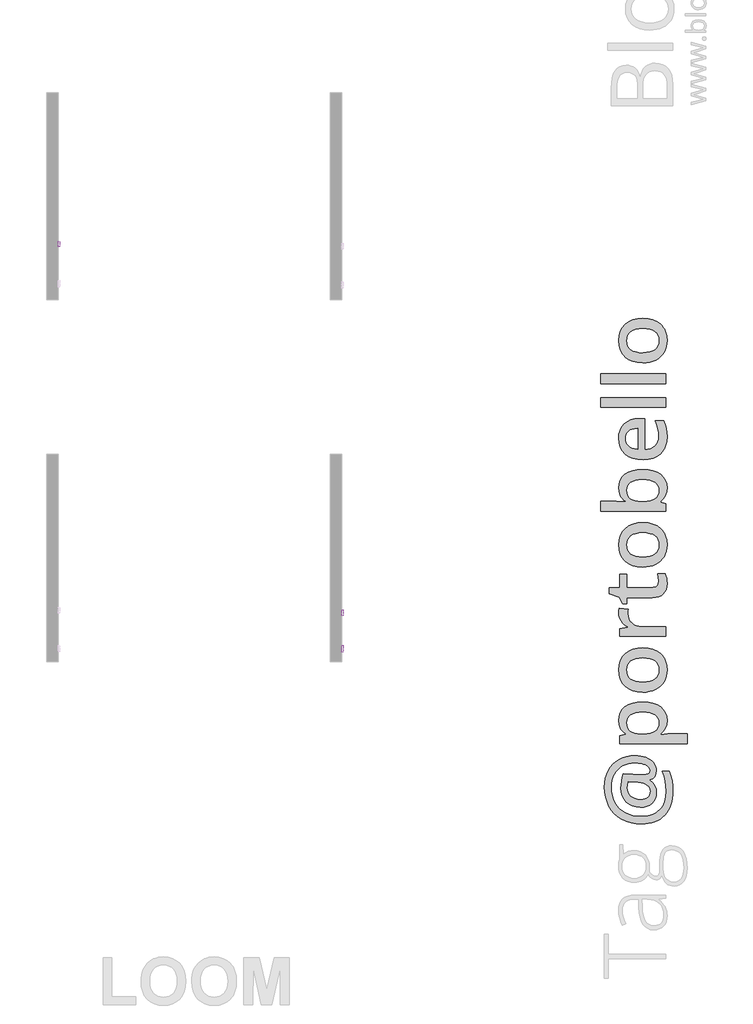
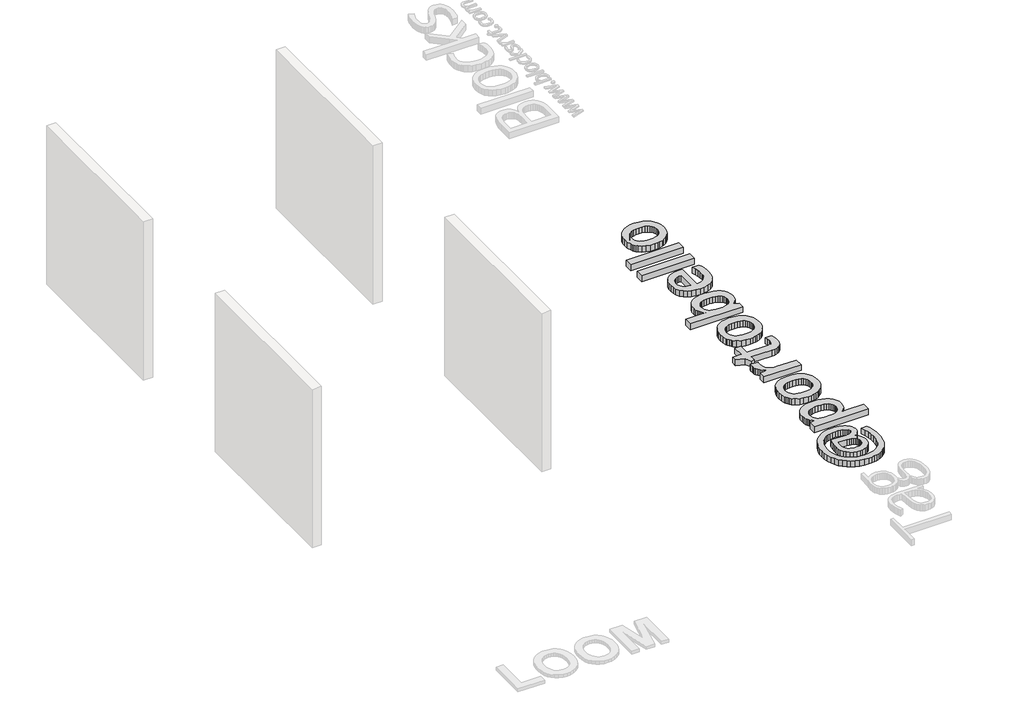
# One storey, part 2 of 3: 4 proxies.
"""IFC4 building model written with IfcOpenShell, lengths in millimetres."""

from ifc_helpers import new_model, si_unit, frame, origin, origin_with_axes, place, context, project, spatial, polyline, outline, extrude, element, save

model = new_model("IFC4")

# Units and contexts
model_context = context("Model", 3, world=origin())
ifc_project = project(units=[si_unit("LENGTHUNIT", "METRE", prefix="MILLI")], contexts=[model_context])

# Site, building, storey
site = spatial("IfcSite", under=ifc_project)
building = spatial("IfcBuilding", under=site)
storey = spatial("IfcBuildingStorey", under=building, Name="PORTOBELLO - SHOWROOM", Elevation=0.0)

# Proxies
placement = place(None, origin())
element("IfcBuildingElementProxy", 1, Name="10mm Arial", ObjectType="10mm Arial", at=placement, inside=storey, context=model_context, shape_type="SweptSolid", body=[
    extrude(outline(polyline([(-8017.1069718, 2485.3397277), (-8004.549933, 2482.1023661), (-8010.3440744, 2467.4698598), (-8019.4368911, 2456.7798221), (-8031.3807932, 2450.2407197), (-8045.728191, 2448.0610188), (-8060.2932523, 2449.7103564), (-8071.8600754, 2454.6583693), (-8080.7260315, 2462.7333791), (-8087.1884919, 2473.7637076), (-8092.4492044, 2500.6190932), (-8090.962348, 2515.266928), (-8086.5017788, 2527.9159373), (-8079.3004887, 2538.1645165), (-8069.5914698, 2545.6110612), (-8058.0767633, 2550.1452068), (-8045.4584109, 2551.6565887), (-8031.6904272, 2549.7006827), (-8020.3075451, 2543.8329649), (-8011.6653839, 2534.4151858), (-8006.1195629, 2521.8090961), (-8018.6766016, 2518.8169892), (-8028.9772975, 2534.2557703), (-8045.9489202, 2539.0995499), (-8065.5938187, 2533.7284728), (-8076.6915923, 2519.3074986), (-8079.8921656, 2500.6436187), (-8076.1029811, 2479.0121574), (-8064.3062318, 2465.1920571), (-8046.9789898, 2460.6180576), (-8036.4974186, 2462.1754247), (-8027.7632869, 2466.8475261), (-8021.1690021, 2474.5853107), (-8017.1069718, 2485.3397277)])), frame((-5514.3406146, 0.0, 0.0), z_axis=(1.0, 0.0, 0.0), x_axis=(0.0, 1.0, 0.0)), (0.0, 0.0, 1.0), 20.0),
    extrude(outline(polyline([(-7991.9928942, 2486.5169501), (-7989.2766988, 2504.3040445), (-7981.1281127, 2516.805901), (-7971.0604087, 2522.9311362), (-7959.006142, 2524.9728813), (-7945.8145068, 2522.4866121), (-7935.2777533, 2515.0278047), (-7928.3707689, 2503.1850701), (-7926.0684407, 2487.5470196), (-7930.1396681, 2465.2043198), (-7941.9977311, 2452.5614419), (-7959.006142, 2448.0610188), (-7972.3571928, 2450.5380909), (-7982.8816835, 2457.9693072), (-7989.7150916, 2470.0603621), (-7991.9928942, 2486.5169501)]), holes=[polyline([(-7979.4358555, 2486.5414755), (-7977.9827216, 2475.1769876), (-7973.62332, 2467.080518), (-7967.0627577, 2462.2336727), (-7959.006142, 2460.6180576), (-7950.9863145, 2462.2428697), (-7944.438015, 2467.1173062), (-7940.0786134, 2475.3210747), (-7938.6254795, 2486.933883), (-7940.0878104, 2497.9672772), (-7944.4748032, 2505.9533821), (-7951.0322998, 2510.8002274), (-7959.006142, 2512.4158425), (-7967.0627577, 2510.8063588), (-7973.62332, 2505.9779076), (-7977.9827216, 2497.8998321), (-7979.4358555, 2486.5414755)])]), frame((-5514.3406146, 0.0, 0.0), z_axis=(1.0, 0.0, 0.0), x_axis=(0.0, 1.0, 0.0)), (0.0, 0.0, 1.0), 20.0),
    extrude(outline(polyline([(-7885.2580647, 2460.1030228), (-7883.6884349, 2449.2627667), (-7893.0816885, 2448.0610188), (-7903.6031135, 2450.1456835), (-7908.8515633, 2455.6148625), (-7910.3721422, 2469.8641584), (-7910.3721422, 2510.8462127), (-7919.7899213, 2510.8462127), (-7919.7899213, 2523.4032514), (-7910.3721422, 2523.4032514), (-7910.3721422, 2541.3313673), (-7897.8151035, 2548.7135327), (-7897.8151035, 2523.4032514), (-7885.2580647, 2523.4032514), (-7885.2580647, 2510.8462127), (-7897.8151035, 2510.8462127), (-7897.8151035, 2470.2320404), (-7897.1529159, 2463.7573173), (-7895.0069376, 2461.4641862), (-7890.7272437, 2460.6180576), (-7885.2580647, 2460.1030228)])), frame((-5514.3406146, 0.0, 0.0), z_axis=(1.0, 0.0, 0.0), x_axis=(0.0, 1.0, 0.0)), (0.0, 0.0, 1.0), 20.0),
    extrude(outline(polyline([(-7846.0173186, 2460.1030228), (-7844.4476887, 2449.2627667), (-7853.8409423, 2448.0610188), (-7864.3623674, 2450.1456835), (-7869.6108172, 2455.6148625), (-7871.1313961, 2469.8641584), (-7871.1313961, 2510.8462127), (-7880.5491752, 2510.8462127), (-7880.5491752, 2523.4032514), (-7871.1313961, 2523.4032514), (-7871.1313961, 2541.3313673), (-7858.5743573, 2548.7135327), (-7858.5743573, 2523.4032514), (-7846.0173186, 2523.4032514), (-7846.0173186, 2510.8462127), (-7858.5743573, 2510.8462127), (-7858.5743573, 2470.2320404), (-7857.9121697, 2463.7573173), (-7855.7661914, 2461.4641862), (-7851.4864976, 2460.6180576), (-7846.0173186, 2460.1030228)])), frame((-5514.3406146, 0.0, 0.0), z_axis=(1.0, 0.0, 0.0), x_axis=(0.0, 1.0, 0.0)), (0.0, 0.0, 1.0), 20.0),
    extrude(outline(polyline([(-7836.5995395, 2486.5169501), (-7833.8833441, 2504.3040445), (-7825.7347579, 2516.805901), (-7815.667054, 2522.9311362), (-7803.6127872, 2524.9728813), (-7790.421152, 2522.4866121), (-7779.8843986, 2515.0278047), (-7772.9774141, 2503.1850701), (-7770.6750859, 2487.5470196), (-7774.7463134, 2465.2043198), (-7786.6043763, 2452.5614419), (-7803.6127872, 2448.0610188), (-7816.963838, 2450.5380909), (-7827.4883287, 2457.9693072), (-7834.3217368, 2470.0603621), (-7836.5995395, 2486.5169501)]), holes=[polyline([(-7824.0425007, 2486.5414755), (-7822.5893668, 2475.1769876), (-7818.2299652, 2467.080518), (-7811.6694029, 2462.2336727), (-7803.6127872, 2460.6180576), (-7795.5929598, 2462.2428697), (-7789.0446602, 2467.1173062), (-7784.6852586, 2475.3210747), (-7783.2321247, 2486.933883), (-7784.6944556, 2497.9672772), (-7789.0814484, 2505.9533821), (-7795.638945, 2510.8002274), (-7803.6127872, 2512.4158425), (-7811.6694029, 2510.8063588), (-7818.2299652, 2505.9779076), (-7822.5893668, 2497.8998321), (-7824.0425007, 2486.5414755)])]), frame((-5514.3406146, 0.0, 0.0), z_axis=(1.0, 0.0, 0.0), x_axis=(0.0, 1.0, 0.0)), (0.0, 0.0, 1.0), 20.0),
    extrude(outline(polyline([(-7756.5484173, 2449.6306487), (-7756.5484173, 2523.4032514), (-7743.9913786, 2523.4032514), (-7743.9913786, 2513.1025556), (-7734.3896585, 2522.0052999), (-7721.2807967, 2524.9728813), (-7709.4227337, 2522.5816483), (-7701.3293299, 2516.3031289), (-7697.5646708, 2507.0692909), (-7696.9024832, 2494.929185), (-7696.9024832, 2449.6306487), (-7709.4595219, 2449.6306487), (-7709.4595219, 2493.2369278), (-7710.9065245, 2504.3469641), (-7716.0200842, 2510.2208133), (-7724.6407856, 2512.4158425), (-7738.2646822, 2507.4862238), (-7742.5597045, 2500.3431817), (-7743.9913786, 2488.773293), (-7743.9913786, 2449.6306487), (-7756.5484173, 2449.6306487)])), frame((-5514.3406146, 0.0, 0.0), z_axis=(1.0, 0.0, 0.0), x_axis=(0.0, 1.0, 0.0)), (0.0, 0.0, 1.0), 20.0),
])
element("IfcBuildingElementProxy", 2, Name="10mm Arial", ObjectType="10mm Arial", at=placement, inside=storey, context=model_context, shape_type="SweptSolid", body=[
    extrude(outline(polyline([(-7617.7403149, 2449.6306487), (-7617.7403149, 2550.0869588), (-7580.5106569, 2550.0869588), (-7565.5010715, 2549.1304656), (-7553.299652, 2544.4338388), (-7545.3901891, 2534.7217542), (-7542.3980822, 2521.0242812), (-7544.4183675, 2509.1846123), (-7550.4792234, 2499.3192435), (-7561.8130545, 2492.6605794), (-7579.6522656, 2490.4410247), (-7605.1832761, 2490.4410247), (-7605.1832761, 2449.6306487), (-7617.7403149, 2449.6306487)]), holes=[polyline([(-7605.1832761, 2502.9980634), (-7578.9165016, 2502.9980634), (-7560.4243, 2507.6088511), (-7556.3224158, 2513.1577379), (-7554.955121, 2520.5828228), (-7558.1802198, 2530.9816205), (-7566.6537685, 2536.6715287), (-7579.2108072, 2537.5299201), (-7605.1832761, 2537.5299201), (-7605.1832761, 2502.9980634)])]), frame((-5514.3406146, 0.0, 0.0), z_axis=(1.0, 0.0, 0.0), x_axis=(0.0, 1.0, 0.0)), (0.0, 0.0, 1.0), 20.0),
    extrude(outline(polyline([(-7529.8410435, 2486.5169501), (-7527.1248481, 2504.3040445), (-7518.9762619, 2516.805901), (-7508.9085579, 2522.9311362), (-7496.8542912, 2524.9728813), (-7483.662656, 2522.4866121), (-7473.1259026, 2515.0278047), (-7466.2189181, 2503.1850701), (-7463.9165899, 2487.5470196), (-7467.9878174, 2465.2043198), (-7479.8458803, 2452.5614419), (-7496.8542912, 2448.0610188), (-7510.205342, 2450.5380909), (-7520.7298327, 2457.9693072), (-7527.5632408, 2470.0603621), (-7529.8410435, 2486.5169501)]), holes=[polyline([(-7517.2840047, 2486.5414755), (-7515.8308708, 2475.1769876), (-7511.4714692, 2467.080518), (-7504.9109069, 2462.2336727), (-7496.8542912, 2460.6180576), (-7488.8344637, 2462.2428697), (-7482.2861642, 2467.1173062), (-7477.9267626, 2475.3210747), (-7476.4736287, 2486.933883), (-7477.9359596, 2497.9672772), (-7482.3229524, 2505.9533821), (-7488.880449, 2510.8002274), (-7496.8542912, 2512.4158425), (-7504.9109069, 2510.8063588), (-7511.4714692, 2505.9779076), (-7515.8308708, 2497.8998321), (-7517.2840047, 2486.5414755)])]), frame((-5514.3406146, 0.0, 0.0), z_axis=(1.0, 0.0, 0.0), x_axis=(0.0, 1.0, 0.0)), (0.0, 0.0, 1.0), 20.0),
    extrude(outline(polyline([(-7449.7899213, 2449.6306487), (-7449.7899213, 2523.4032514), (-7438.8025124, 2523.4032514), (-7438.8025124, 2512.4894189), (-7431.0034141, 2522.5448601), (-7423.1552649, 2524.9728813), (-7410.5491752, 2521.0978576), (-7414.7430299, 2509.8406686), (-7423.5721978, 2512.4158425), (-7430.6723203, 2509.9387704), (-7435.1972688, 2503.0716398), (-7437.2328826, 2488.405411), (-7437.2328826, 2449.6306487), (-7449.7899213, 2449.6306487)])), frame((-5514.3406146, 0.0, 0.0), z_axis=(1.0, 0.0, 0.0), x_axis=(0.0, 1.0, 0.0)), (0.0, 0.0, 1.0), 20.0),
    extrude(outline(polyline([(-7376.0173186, 2460.1030228), (-7374.4476887, 2449.2627667), (-7383.8409423, 2448.0610188), (-7394.3623674, 2450.1456835), (-7399.6108172, 2455.6148625), (-7401.1313961, 2469.8641584), (-7401.1313961, 2510.8462127), (-7410.5491752, 2510.8462127), (-7410.5491752, 2521.0978576), (-7410.5491752, 2523.4032514), (-7401.1313961, 2523.4032514), (-7401.1313961, 2541.3313673), (-7388.5743573, 2548.7135327), (-7388.5743573, 2523.4032514), (-7376.0173186, 2523.4032514), (-7376.0173186, 2510.8462127), (-7388.5743573, 2510.8462127), (-7388.5743573, 2470.2320404), (-7387.9121697, 2463.7573173), (-7385.7661914, 2461.4641862), (-7381.4864976, 2460.6180576), (-7376.0173186, 2460.1030228)])), frame((-5514.3406146, 0.0, 0.0), z_axis=(1.0, 0.0, 0.0), x_axis=(0.0, 1.0, 0.0)), (0.0, 0.0, 1.0), 20.0),
    extrude(outline(polyline([(-7366.5995395, 2486.5169501), (-7363.8833441, 2504.3040445), (-7355.7347579, 2516.805901), (-7345.667054, 2522.9311362), (-7333.6127872, 2524.9728813), (-7320.421152, 2522.4866121), (-7309.8843986, 2515.0278047), (-7302.9774141, 2503.1850701), (-7300.6750859, 2487.5470196), (-7304.7463134, 2465.2043198), (-7316.6043763, 2452.5614419), (-7333.6127872, 2448.0610188), (-7346.963838, 2450.5380909), (-7357.4883287, 2457.9693072), (-7364.3217368, 2470.0603621), (-7366.5995395, 2486.5169501)]), holes=[polyline([(-7354.0425007, 2486.5414755), (-7352.5893668, 2475.1769876), (-7348.2299652, 2467.080518), (-7341.6694029, 2462.2336727), (-7333.6127872, 2460.6180576), (-7325.5929598, 2462.2428697), (-7319.0446602, 2467.1173062), (-7314.6852586, 2475.3210747), (-7313.2321247, 2486.933883), (-7314.6944556, 2497.9672772), (-7319.0814484, 2505.9533821), (-7325.638945, 2510.8002274), (-7333.6127872, 2512.4158425), (-7341.6694029, 2510.8063588), (-7348.2299652, 2505.9779076), (-7352.5893668, 2497.8998321), (-7354.0425007, 2486.5414755)])]), frame((-5514.3406146, 0.0, 0.0), z_axis=(1.0, 0.0, 0.0), x_axis=(0.0, 1.0, 0.0)), (0.0, 0.0, 1.0), 20.0),
    extrude(outline(polyline([(-7273.9913786, 2449.6306487), (-7286.5484173, 2449.6306487), (-7286.5484173, 2550.0869588), (-7273.9913786, 2550.0869588), (-7273.9913786, 2512.8327754), (-7265.1989989, 2521.9378548), (-7254.2729036, 2524.9728813), (-7241.6913394, 2522.2382918), (-7231.9302038, 2514.5495581), (-7225.9337273, 2502.5933932), (-7223.7632235, 2487.620596), (-7226.0103693, 2470.8574398), (-7232.7518069, 2458.3862402), (-7242.6447669, 2450.6423242), (-7254.34648, 2448.0610188), (-7265.5116986, 2451.3903509), (-7273.9913786, 2461.3783471), (-7273.9913786, 2449.6306487)]), holes=[polyline([(-7273.9913786, 2487.0319849), (-7270.5578133, 2469.471751), (-7263.9788569, 2462.8314809), (-7255.4256005, 2460.6180576), (-7248.1783252, 2462.2490011), (-7241.985645, 2467.1418316), (-7237.7366079, 2475.2658924), (-7236.3202623, 2486.5905265), (-7237.67836, 2498.0807074), (-7241.7526531, 2506.1127977), (-7247.7521953, 2510.8400813), (-7254.8860403, 2512.4158425), (-7262.1333156, 2510.784899), (-7268.3259958, 2505.8920685), (-7272.5750329, 2497.9151605), (-7273.9913786, 2487.0319849)])]), frame((-5514.3406146, 0.0, 0.0), z_axis=(1.0, 0.0, 0.0), x_axis=(0.0, 1.0, 0.0)), (0.0, 0.0, 1.0), 20.0),
    extrude(outline(polyline([(-7157.9859228, 2471.6054665), (-7145.6741386, 2470.0358367), (-7150.1101824, 2460.759079), (-7157.1888451, 2453.8245034), (-7166.7507113, 2449.50189), (-7178.6363654, 2448.0610188), (-7193.3700393, 2450.547288), (-7204.7069361, 2458.0060954), (-7211.9358173, 2469.9530632), (-7214.3454444, 2485.9038134), (-7211.9112919, 2502.3910582), (-7204.6088343, 2514.7212364), (-7193.4252216, 2522.4099701), (-7179.3476039, 2524.9728813), (-7165.708379, 2522.4161014), (-7154.8098749, 2514.7457618), (-7147.6637671, 2502.4401091), (-7145.2817312, 2485.9773898), (-7145.3553076, 2482.5928754), (-7201.7884056, 2482.5928754), (-7199.6148362, 2473.1934905), (-7194.5656558, 2466.2834403), (-7187.2785266, 2462.0344033), (-7178.3911107, 2460.6180576), (-7166.0793266, 2463.2422825), (-7157.9859228, 2471.6054665)]), holes=[polyline([(-7201.7884056, 2495.1499142), (-7157.83877, 2495.1499142), (-7162.8664906, 2506.5297306), (-7170.1873423, 2510.9443145), (-7179.3966549, 2512.4158425), (-7194.8599614, 2507.7192157), (-7199.7252008, 2502.2285769), (-7201.7884056, 2495.1499142)])]), frame((-5514.3406146, 0.0, 0.0), z_axis=(1.0, 0.0, 0.0), x_axis=(0.0, 1.0, 0.0)), (0.0, 0.0, 1.0), 20.0),
    extrude(outline(polyline([(-5494.3406146, -7120.1676536), (-5494.3406146, -7132.7246924), (-5514.3406146, -7132.7246924), (-5514.3406146, -7120.1676536), (-5494.3406146, -7120.1676536)])), frame((0.0, 0.0, 2449.6306487), z_axis=(0.0, 0.0, 1.0), x_axis=(1.0, 0.0, 0.0)), (0.0, 0.0, 1.0), 100.4563101),
    extrude(outline(polyline([(-5494.3406146, -7088.7750567), (-5494.3406146, -7101.3320955), (-5514.3406146, -7101.3320955), (-5514.3406146, -7088.7750567), (-5494.3406146, -7088.7750567)])), frame((0.0, 0.0, 2449.6306487), z_axis=(0.0, 0.0, 1.0), x_axis=(1.0, 0.0, 0.0)), (0.0, 0.0, 1.0), 100.4563101),
    extrude(outline(polyline([(-7073.0787583, 2486.5169501), (-7070.3625629, 2504.3040445), (-7062.2139767, 2516.805901), (-7052.1462727, 2522.9311362), (-7040.092006, 2524.9728813), (-7026.9003708, 2522.4866121), (-7016.3636173, 2515.0278047), (-7009.4566329, 2503.1850701), (-7007.1543047, 2487.5470196), (-7011.2255321, 2465.2043198), (-7023.0835951, 2452.5614419), (-7040.092006, 2448.0610188), (-7053.4430568, 2450.5380909), (-7063.9675475, 2457.9693072), (-7070.8009556, 2470.0603621), (-7073.0787583, 2486.5169501)]), holes=[polyline([(-7060.5217195, 2486.5414755), (-7059.0685856, 2475.1769876), (-7054.709184, 2467.080518), (-7048.1486217, 2462.2336727), (-7040.092006, 2460.6180576), (-7032.0721785, 2462.2428697), (-7025.523879, 2467.1173062), (-7021.1644774, 2475.3210747), (-7019.7113435, 2486.933883), (-7021.1736744, 2497.9672772), (-7025.5606672, 2505.9533821), (-7032.1181638, 2510.8002274), (-7040.092006, 2512.4158425), (-7048.1486217, 2510.8063588), (-7054.709184, 2505.9779076), (-7059.0685856, 2497.8998321), (-7060.5217195, 2486.5414755)])]), frame((-5514.3406146, 0.0, 0.0), z_axis=(1.0, 0.0, 0.0), x_axis=(0.0, 1.0, 0.0)), (0.0, 0.0, 1.0), 20.0),
])
element("IfcBuildingElementProxy", 3, Name="10mm Arial", ObjectType="10mm Arial", at=placement, inside=storey, context=model_context, shape_type="SweptSolid", body=[
    extrude(outline(polyline([(-2811.3536939, 2439.3911643), (-2811.3536939, 2539.8474745), (-2774.124036, 2539.8474745), (-2759.1144506, 2538.8909813), (-2746.9130311, 2534.1943545), (-2739.0035682, 2524.4822698), (-2736.0114613, 2510.7847969), (-2738.0317466, 2498.945128), (-2744.0926025, 2489.0797592), (-2755.4264336, 2482.421095), (-2773.2656447, 2480.2015403), (-2798.7966552, 2480.2015403), (-2798.7966552, 2439.3911643), (-2811.3536939, 2439.3911643)]), holes=[polyline([(-2798.7966552, 2492.7585791), (-2772.5298807, 2492.7585791), (-2754.0376791, 2497.3693668), (-2749.9357948, 2502.9182535), (-2748.5685001, 2510.3433385), (-2751.7935989, 2520.7421362), (-2760.2671475, 2526.4320444), (-2772.8241863, 2527.2904357), (-2798.7966552, 2527.2904357), (-2798.7966552, 2492.7585791)])]), frame((-9214.3406146, 0.0, 0.0), z_axis=(1.0, 0.0, 0.0), x_axis=(0.0, 1.0, 0.0)), (0.0, 0.0, 1.0), 20.0),
    extrude(outline(polyline([(-2723.4544225, 2476.2774657), (-2720.7382272, 2494.0645602), (-2712.589641, 2506.5664167), (-2702.521937, 2512.6916519), (-2690.4676703, 2514.733397), (-2677.2760351, 2512.2471278), (-2666.7392816, 2504.7883204), (-2659.8322972, 2492.9455858), (-2657.529969, 2477.3075353), (-2661.6011964, 2454.9648355), (-2673.4592594, 2442.3219576), (-2690.4676703, 2437.8215345), (-2703.8187211, 2440.2986066), (-2714.3432118, 2447.7298229), (-2721.1766199, 2459.8208778), (-2723.4544225, 2476.2774657)]), holes=[polyline([(-2710.8973838, 2476.3019912), (-2709.4442499, 2464.9375032), (-2705.0848483, 2456.8410336), (-2698.524286, 2451.9941884), (-2690.4676703, 2450.3785733), (-2682.4478428, 2452.0033854), (-2675.8995433, 2456.8778218), (-2671.5401417, 2465.0815903), (-2670.0870078, 2476.6943987), (-2671.5493387, 2487.7277928), (-2675.9363315, 2495.7138978), (-2682.4938281, 2500.5607431), (-2690.4676703, 2502.1763582), (-2698.524286, 2500.5668745), (-2705.0848483, 2495.7384233), (-2709.4442499, 2487.6603478), (-2710.8973838, 2476.3019912)])]), frame((-9214.3406146, 0.0, 0.0), z_axis=(1.0, 0.0, 0.0), x_axis=(0.0, 1.0, 0.0)), (0.0, 0.0, 1.0), 20.0),
    extrude(outline(polyline([(-2643.4033004, 2439.3911643), (-2643.4033004, 2513.1637671), (-2632.4158915, 2513.1637671), (-2632.4158915, 2502.2499346), (-2624.6167932, 2512.3053758), (-2616.7686439, 2514.733397), (-2604.1625542, 2510.8583733), (-2608.356409, 2499.6011842), (-2617.1855769, 2502.1763582), (-2624.2856994, 2499.6992861), (-2628.8106479, 2492.8321555), (-2630.8462616, 2478.1659266), (-2630.8462616, 2439.3911643), (-2643.4033004, 2439.3911643)])), frame((-9214.3406146, 0.0, 0.0), z_axis=(1.0, 0.0, 0.0), x_axis=(0.0, 1.0, 0.0)), (0.0, 0.0, 1.0), 20.0),
    extrude(outline(polyline([(-2569.6306976, 2449.8635385), (-2568.0610678, 2439.0232823), (-2577.4543214, 2437.8215345), (-2587.9757465, 2439.9061991), (-2593.2241963, 2445.3753781), (-2594.7447752, 2459.6246741), (-2594.7447752, 2500.6067283), (-2604.1625542, 2500.6067283), (-2604.1625542, 2510.8583733), (-2604.1625542, 2513.1637671), (-2594.7447752, 2513.1637671), (-2594.7447752, 2531.091883), (-2582.1877364, 2538.4740484), (-2582.1877364, 2513.1637671), (-2569.6306976, 2513.1637671), (-2569.6306976, 2500.6067283), (-2582.1877364, 2500.6067283), (-2582.1877364, 2459.9925561), (-2581.5255488, 2453.517833), (-2579.3795705, 2451.2247019), (-2575.0998766, 2450.3785733), (-2569.6306976, 2449.8635385)])), frame((-9214.3406146, 0.0, 0.0), z_axis=(1.0, 0.0, 0.0), x_axis=(0.0, 1.0, 0.0)), (0.0, 0.0, 1.0), 20.0),
    extrude(outline(polyline([(-2560.2129186, 2476.2774657), (-2557.4967232, 2494.0645602), (-2549.348137, 2506.5664167), (-2539.280433, 2512.6916519), (-2527.2261663, 2514.733397), (-2514.0345311, 2512.2471278), (-2503.4977776, 2504.7883204), (-2496.5907932, 2492.9455858), (-2494.288465, 2477.3075353), (-2498.3596924, 2454.9648355), (-2510.2177554, 2442.3219576), (-2527.2261663, 2437.8215345), (-2540.5772171, 2440.2986066), (-2551.1017078, 2447.7298229), (-2557.9351159, 2459.8208778), (-2560.2129186, 2476.2774657)]), holes=[polyline([(-2547.6558798, 2476.3019912), (-2546.2027459, 2464.9375032), (-2541.8433443, 2456.8410336), (-2535.282782, 2451.9941884), (-2527.2261663, 2450.3785733), (-2519.2063388, 2452.0033854), (-2512.6580393, 2456.8778218), (-2508.2986377, 2465.0815903), (-2506.8455038, 2476.6943987), (-2508.3078347, 2487.7277928), (-2512.6948275, 2495.7138978), (-2519.2523241, 2500.5607431), (-2527.2261663, 2502.1763582), (-2535.282782, 2500.5668745), (-2541.8433443, 2495.7384233), (-2546.2027459, 2487.6603478), (-2547.6558798, 2476.3019912)])]), frame((-9214.3406146, 0.0, 0.0), z_axis=(1.0, 0.0, 0.0), x_axis=(0.0, 1.0, 0.0)), (0.0, 0.0, 1.0), 20.0),
    extrude(outline(polyline([(-2467.6047576, 2439.3911643), (-2480.1617964, 2439.3911643), (-2480.1617964, 2539.8474745), (-2467.6047576, 2539.8474745), (-2467.6047576, 2502.5932911), (-2458.812378, 2511.6983705), (-2447.8862827, 2514.733397), (-2435.3047185, 2511.9988075), (-2425.5435829, 2504.3100738), (-2419.5471063, 2492.3539089), (-2417.3766026, 2477.3811117), (-2419.6237484, 2460.6179555), (-2426.365186, 2448.1467558), (-2436.258146, 2440.4028398), (-2447.9598591, 2437.8215345), (-2459.1250776, 2441.1508666), (-2467.6047576, 2451.1388627), (-2467.6047576, 2439.3911643)]), holes=[polyline([(-2467.6047576, 2476.7925005), (-2464.1711923, 2459.2322666), (-2457.592236, 2452.5919966), (-2449.0389796, 2450.3785733), (-2441.7917043, 2452.0095168), (-2435.5990241, 2456.9023473), (-2431.349987, 2465.026408), (-2429.9336413, 2476.3510421), (-2431.291739, 2487.8412231), (-2435.3660321, 2495.8733133), (-2441.3655743, 2500.600597), (-2448.4994194, 2502.1763582), (-2455.7466947, 2500.5454147), (-2461.9393749, 2495.6525841), (-2466.188412, 2487.6756762), (-2467.6047576, 2476.7925005)])]), frame((-9214.3406146, 0.0, 0.0), z_axis=(1.0, 0.0, 0.0), x_axis=(0.0, 1.0, 0.0)), (0.0, 0.0, 1.0), 20.0),
    extrude(outline(polyline([(-2351.5993018, 2461.3659822), (-2339.2875177, 2459.7963523), (-2343.7235614, 2450.5195947), (-2350.8022242, 2443.5850191), (-2360.3640904, 2439.2624056), (-2372.2497445, 2437.8215345), (-2386.9834184, 2440.3078036), (-2398.3203152, 2447.7666111), (-2405.5491964, 2459.7135789), (-2407.9588235, 2475.6643291), (-2405.524671, 2492.1515738), (-2398.2222133, 2504.481752), (-2387.0386007, 2512.1704857), (-2372.960983, 2514.733397), (-2359.321758, 2512.1766171), (-2348.4232539, 2504.5062775), (-2341.2771462, 2492.2006248), (-2338.8951103, 2475.7379055), (-2338.9686867, 2472.3533911), (-2395.4017847, 2472.3533911), (-2393.2282153, 2462.9540061), (-2388.1790349, 2456.043956), (-2380.8919057, 2451.7949189), (-2372.0044898, 2450.3785733), (-2359.6927057, 2453.0027982), (-2351.5993018, 2461.3659822)]), holes=[polyline([(-2395.4017847, 2484.9104299), (-2351.452149, 2484.9104299), (-2356.4798696, 2496.2902463), (-2363.8007213, 2500.7048302), (-2373.0100339, 2502.1763582), (-2388.4733405, 2497.4797314), (-2393.3385799, 2491.9890926), (-2395.4017847, 2484.9104299)])]), frame((-9214.3406146, 0.0, 0.0), z_axis=(1.0, 0.0, 0.0), x_axis=(0.0, 1.0, 0.0)), (0.0, 0.0, 1.0), 20.0),
    extrude(outline(polyline([(-9194.3406146, -2313.7810327), (-9194.3406146, -2326.3380715), (-9214.3406146, -2326.3380715), (-9214.3406146, -2313.7810327), (-9194.3406146, -2313.7810327)])), frame((0.0, 0.0, 2439.3911643), z_axis=(0.0, 0.0, 1.0), x_axis=(1.0, 0.0, 0.0)), (0.0, 0.0, 1.0), 100.4563101),
    extrude(outline(polyline([(-9194.3406146, -2282.3884358), (-9194.3406146, -2294.9454746), (-9214.3406146, -2294.9454746), (-9214.3406146, -2282.3884358), (-9194.3406146, -2282.3884358)])), frame((0.0, 0.0, 2439.3911643), z_axis=(0.0, 0.0, 1.0), x_axis=(1.0, 0.0, 0.0)), (0.0, 0.0, 1.0), 100.4563101),
    extrude(outline(polyline([(-2266.6921373, 2476.2774657), (-2263.9759419, 2494.0645602), (-2255.8273557, 2506.5664167), (-2245.7596518, 2512.6916519), (-2233.7053851, 2514.733397), (-2220.5137499, 2512.2471278), (-2209.9769964, 2504.7883204), (-2203.070012, 2492.9455858), (-2200.7676838, 2477.3075353), (-2204.8389112, 2454.9648355), (-2216.6969742, 2442.3219576), (-2233.7053851, 2437.8215345), (-2247.0564358, 2440.2986066), (-2257.5809266, 2447.7298229), (-2264.4143347, 2459.8208778), (-2266.6921373, 2476.2774657)]), holes=[polyline([(-2254.1350986, 2476.3019912), (-2252.6819647, 2464.9375032), (-2248.322563, 2456.8410336), (-2241.7620008, 2451.9941884), (-2233.7053851, 2450.3785733), (-2225.6855576, 2452.0033854), (-2219.1372581, 2456.8778218), (-2214.7778565, 2465.0815903), (-2213.3247226, 2476.6943987), (-2214.7870535, 2487.7277928), (-2219.1740463, 2495.7138978), (-2225.7315429, 2500.5607431), (-2233.7053851, 2502.1763582), (-2241.7620008, 2500.5668745), (-2248.322563, 2495.7384233), (-2252.6819647, 2487.6603478), (-2254.1350986, 2476.3019912)])]), frame((-9214.3406146, 0.0, 0.0), z_axis=(1.0, 0.0, 0.0), x_axis=(0.0, 1.0, 0.0)), (0.0, 0.0, 1.0), 20.0),
])
element("IfcBuildingElementProxy", 4, Name="80mm OpenSans Bold", ObjectType="80mm OpenSans Bold", at=placement, inside=storey, context=model_context, shape_type="SweptSolid", body=[
    extrude(outline(polyline([(-1694.6456372, -9442.0370617), (-1656.5400225, -9443.5844216), (-1620.101951, -9448.2265012), (-1585.3314226, -9455.9633006), (-1552.2284375, -9466.7948197), (-1521.7469503, -9480.4356232), (-1494.840916, -9496.6002758), (-1471.5103347, -9515.2887776), (-1451.7552062, -9536.5011284), (-1436.0337295, -9559.8467327), (-1424.8041033, -9584.9349946), (-1418.0663275, -9611.7659143), (-1415.8204023, -9640.3394918), (-1421.5291086, -9680.9614441), (-1428.6649915, -9699.109121), (-1438.6552275, -9715.8145984), (-1451.0791752, -9730.4919829), (-1465.5161931, -9742.5553807), (-1481.966281, -9752.0047919), (-1500.4294391, -9758.8402166), (-1500.4294391, -9765.5704809), (-1463.4129855, -9795.7364869), (-1436.9726615, -9832.3923906), (-1421.1084671, -9874.7570007), (-1415.8204023, -9922.0491257), (-1419.3733208, -9964.7141939), (-1430.0320764, -10002.5719306), (-1447.7966691, -10035.6223356), (-1472.6670989, -10063.8654089), (-1503.6067848, -10086.4748905), (-1539.5791461, -10102.6245203), (-1580.5841827, -10112.3142981), (-1626.6218945, -10115.544224), (-1679.7654435, -10111.2626943), (-1727.6659964, -10098.4181051), (-1770.3235532, -10077.0104564), (-1807.7381139, -10047.0397482), (-1838.1820438, -10009.8580426), (-1859.927708, -9966.8174015), (-1872.9751065, -9917.917825), (-1877.3242394, -9863.1593131), (-1875.4914442, -9818.8417246), (-1869.9930586, -9770.0172627), (-1861.2497242, -9721.7937172), (-1849.6820825, -9679.278878), (-1598.4990045, -9691.5375737), (-1585.7595756, -9691.5375737), (-1547.901839, -9687.932075), (-1520.8605985, -9677.1155788), (-1511.3961644, -9669.0032066), (-1504.6358543, -9659.0880851), (-1499.2276062, -9633.849594), (-1502.6903872, -9613.095442), (-1513.0787304, -9594.5797037), (-1530.3926358, -9578.3023793), (-1554.6321033, -9564.2634686), (-1584.2347501, -9552.9587278), (-1617.6381935, -9544.8839129), (-1654.8424335, -9540.039024), (-1695.8474701, -9538.4240611), (-1740.9387386, -9540.8427498), (-1783.1906768, -9548.098816), (-1822.6032847, -9560.1922596), (-1859.1765625, -9577.1230807), (-1892.3171049, -9598.5157065), (-1921.4315071, -9623.9945642), (-1946.5197691, -9653.5596538), (-1967.5818909, -9687.2109752), (-1984.249811, -9724.2124059), (-1996.1554683, -9763.8278232), (-2003.2988626, -9806.057227), (-2005.6799941, -9850.9006174), (-2002.6904347, -9907.8750088), (-1993.7217566, -9961.0185577), (-1978.7739598, -10010.3312643), (-1957.8470443, -10055.8131284), (-1931.369163, -10096.8031421), (-1899.768469, -10132.6402972), (-1863.0449621, -10163.3245936), (-1821.1986425, -10188.8560315), (-1775.0107015, -10208.941664), (-1725.2623305, -10223.2885443), (-1671.9535296, -10231.8966726), (-1615.0842986, -10234.7660486), (-1540.9086737, -10229.4103807), (-1475.8219103, -10213.343377), (-1446.6868515, -10201.2931242), (-1419.8240081, -10186.5650375), (-1395.2333801, -10169.1591168), (-1372.9149674, -10149.0753622), (-1353.0565564, -10126.4902928), (-1335.8459336, -10101.5804279), (-1321.2830989, -10074.3457675), (-1309.3680523, -10044.7863115), (-1293.4813236, -9978.693013), (-1288.1857473, -9903.3005323), (-1291.2804671, -9841.5864124), (-1300.5646263, -9778.5502763), (-1316.038225, -9714.192124), (-1337.7012632, -9648.5119555), (-1247.563795, -9648.5119555), (-1226.9523606, -9707.7322721), (-1212.2299075, -9769.5365295), (-1203.3964356, -9833.9247276), (-1200.4519449, -9900.8968665), (-1202.1476561, -9950.5119091), (-1207.2347894, -9997.3214231), (-1215.713345, -10041.3254083), (-1227.5833229, -10082.5238649), (-1242.844723, -10120.9167927), (-1261.4975453, -10156.5041919), (-1283.5417898, -10189.2860623), (-1308.9774566, -10219.2624041), (-1337.4477515, -10246.0501329), (-1368.5958804, -10269.2661646), (-1402.4218432, -10288.910499), (-1438.9256399, -10304.9831363), (-1478.1072706, -10317.4840765), (-1519.9667353, -10326.4133194), (-1564.5040339, -10331.7708652), (-1611.7191665, -10333.5567138), (-1680.7870015, -10329.6958255), (-1745.9338566, -10318.1131609), (-1807.1597319, -10298.8087198), (-1864.4646273, -10271.7825022), (-1916.5640839, -10237.9058371), (-1962.1736428, -10198.0500532), (-2001.293304, -10152.2151507), (-2033.9230674, -10100.4011294), (-2059.6347802, -10043.7797764), (-2078.0002894, -9983.522879), (-2089.0195949, -9919.6304369), (-2092.6926967, -9852.1024503), (-2089.6280228, -9793.8811574), (-2080.434001, -9738.9198361), (-2065.1106314, -9687.2184867), (-2043.657914, -9638.777109), (-2016.541559, -9594.5947267), (-1984.2272766, -9555.6703633), (-1946.715067, -9522.0040189), (-1904.00493, -9493.5956935), (-1856.9381487, -9471.0387921), (-1806.3560061, -9454.9267197), (-1752.2585023, -9445.2594762), (-1694.6456372, -9442.0370617)]), holes=[polyline([(-1624.6989619, -10010.2636612), (-1595.2916129, -10008.6749883), (-1569.8052438, -10003.9089697), (-1548.2398545, -9995.9656053), (-1530.5954451, -9984.8448952), (-1516.8720156, -9970.5468393), (-1507.0695659, -9953.0714376), (-1501.1880961, -9932.4186902), (-1499.2276062, -9908.5885971), (-1501.6913636, -9883.3050373), (-1509.082636, -9861.0561055), (-1521.4014233, -9841.8418019), (-1538.6477256, -9825.6621263), (-1560.8215428, -9812.5170789), (-1587.9228749, -9802.4066596), (-1619.9517219, -9795.3308683), (-1656.9080838, -9791.2897051), (-1785.5042051, -9784.5594409), (-1792.3546527, -9820.8547947), (-1794.6381352, -9859.5538144), (-1791.7762706, -9893.1675786), (-1783.1906768, -9922.8603629), (-1768.8813537, -9948.6321673), (-1748.8483014, -9970.4829919), (-1723.91778, -9987.8870347), (-1694.9160496, -10000.3184939), (-1661.8431102, -10007.7773694), (-1624.6989619, -10010.2636612)])]), origin_with_axes(), (0.0, 0.0, 1.0), 100.0),
    extrude(outline(polyline([(-1277.3692511, -8983.4176236), (-1282.5671785, -9036.9743026), (-1298.1609605, -9084.191313), (-1324.1505971, -9125.0686549), (-1360.5360884, -9159.6063281), (-1360.5360884, -9167.2980587), (-1266.5527549, -9159.6063281), (-1015.8504101, -9159.6063281), (-1015.8504101, -9288.442816), (-1892.7077006, -9288.442816), (-1892.7077006, -9184.1237194), (-1815.5500278, -9166.0962258), (-1815.5500278, -9159.6063281), (-1837.2393561, -9143.7759352), (-1856.036774, -9126.0902128), (-1871.9422814, -9106.5491609), (-1884.9558784, -9085.1527794), (-1895.0775649, -9061.9010683), (-1902.307341, -9036.7940277), (-1908.0911619, -8981.0139578), (-1902.9307918, -8928.2084243), (-1887.4496816, -8881.5622846), (-1861.6478314, -8841.0755384), (-1825.525241, -8806.748186), (-1780.0884456, -8779.4064873), (-1726.3439802, -8759.8767025), (-1664.2918448, -8748.1588316), (-1593.9320394, -8744.2528747), (-1523.3994705, -8748.2264347), (-1461.0694113, -8760.1471149), (-1406.9418616, -8780.0149152), (-1361.0168216, -8807.8298356), (-1324.4210095, -8842.6454327), (-1298.2811438, -8883.515263), (-1282.5972243, -8930.4393267), (-1277.3692511, -8983.4176236)]), holes=[polyline([(-1800.4069332, -9014.9056458), (-1797.6126717, -9049.9916553), (-1789.2298871, -9080.0149437), (-1775.2585796, -9104.9755109), (-1755.698749, -9124.873357), (-1730.0095705, -9140.0690319), (-1697.6502195, -9150.9230853), (-1658.6206957, -9157.4355174), (-1612.9209994, -9159.6063281), (-1593.9320394, -9159.6063281), (-1542.5837284, -9157.4580518), (-1498.8670563, -9151.0132228), (-1462.7820232, -9140.2718412), (-1434.3286291, -9125.2339069), (-1412.7707513, -9105.3135264), (-1397.3722671, -9079.9248062), (-1388.1331766, -9049.0677463), (-1385.0534798, -9012.7423466), (-1388.4636807, -8981.8176836), (-1398.6942833, -8954.6637713), (-1415.7452877, -8931.2806097), (-1439.6166939, -8911.6681989), (-1469.7826999, -8896.157043), (-1505.7175039, -8885.0776458), (-1547.4211058, -8878.4300075), (-1594.8935057, -8876.2141281), (-1642.5236462, -8878.4149846), (-1683.9793701, -8885.0175542), (-1719.2606775, -8896.0218368), (-1748.3675682, -8911.4278324), (-1771.1347904, -8931.1003348), (-1787.397092, -8954.9041378), (-1797.1544729, -8982.8392415), (-1800.4069332, -9014.9056458)])]), origin_with_axes(), (0.0, 0.0, 1.0), 100.0),
    extrude(outline(polyline([(-1593.9320394, -8036.1329246), (-1523.3994705, -8040.9402563), (-1461.0694113, -8055.3622512), (-1406.9418616, -8079.3989093), (-1361.0168216, -8113.0502308), (-1341.4119223, -8133.222245), (-1324.4210095, -8155.2796347), (-1310.0440833, -8179.2223996), (-1298.2811438, -8205.05054), (-1282.5972243, -8262.3629469), (-1277.3692511, -8327.2168552), (-1279.7804284, -8368.867877), (-1287.0139602, -8408.0100725), (-1299.0698466, -8444.6434419), (-1315.9480875, -8478.7679851), (-1337.3256904, -8509.7452283), (-1362.8796626, -8536.9366979), (-1392.6100042, -8560.3423938), (-1426.5167152, -8579.962316), (-1463.9763446, -8595.473472), (-1504.3654418, -8606.5528691), (-1547.6840068, -8613.2005074), (-1593.9320394, -8615.4163868), (-1663.9012491, -8610.6466125), (-1725.7430637, -8596.3372894), (-1779.4574833, -8572.4884176), (-1825.0445078, -8539.0999971), (-1844.5085674, -8519.0425326), (-1861.377419, -8497.0283338), (-1875.6510626, -8473.0574009), (-1887.3294983, -8447.1297337), (-1902.900746, -8389.4041968), (-1908.0911619, -8323.8517231), (-1902.7730512, -8260.9583046), (-1886.8187194, -8204.9604025), (-1860.2281662, -8155.8580167), (-1823.0013919, -8113.6511473), (-1776.7758936, -8079.7369249), (-1723.1891688, -8055.5124803), (-1662.2412174, -8040.9778135), (-1593.9320394, -8036.1329246)]), holes=[polyline([(-1593.9320394, -8482.7340337), (-1544.976127, -8480.2702762), (-1502.5476696, -8472.8790038), (-1466.6466671, -8460.5602165), (-1437.2731197, -8443.3139142), (-1414.4270272, -8421.1400971), (-1398.1083898, -8394.038765), (-1388.3172073, -8362.0099179), (-1385.0534798, -8325.053556), (-1388.3172073, -8288.4352095), (-1398.1083898, -8256.6993093), (-1414.4270272, -8229.8458552), (-1437.2731197, -8207.8748473), (-1466.6466671, -8190.7862857), (-1502.5476696, -8178.5801702), (-1544.976127, -8171.2565009), (-1593.9320394, -8168.8152778), (-1642.3245926, -8171.2715238), (-1684.2648054, -8178.6402618), (-1719.7526778, -8190.9214919), (-1748.7882097, -8208.1152139), (-1771.3714013, -8230.221428), (-1787.5022523, -8257.2401341), (-1797.180763, -8289.1713322), (-1800.4069332, -8326.0150223), (-1797.0718469, -8364.4060723), (-1787.0665879, -8397.1334847), (-1770.3911563, -8424.1972595), (-1747.045552, -8445.5973968), (-1717.4654396, -8461.8446754), (-1682.0864833, -8473.4498744), (-1640.9086832, -8480.4129939), (-1593.9320394, -8482.7340337)])]), origin_with_axes(), (0.0, 0.0, 1.0), 100.0),
    extrude(outline(polyline([(-1908.0911619, -7585.4455837), (-1906.709054, -7550.7727043), (-1902.5627305, -7522.7099058), (-1782.3794396, -7534.9686015), (-1787.4271378, -7562.3703918), (-1789.1097038, -7590.7336485), (-1785.9699154, -7626.7886358), (-1776.5505499, -7659.2381243), (-1760.8516076, -7688.0821141), (-1738.8730882, -7713.3206052), (-1711.8769165, -7733.8268792), (-1681.125017, -7748.4742178), (-1646.6173896, -7757.262621), (-1608.3540343, -7760.1920887), (-1292.7527124, -7760.1920887), (-1292.7527124, -7889.0285765), (-1892.7077006, -7889.0285765), (-1892.7077006, -7788.0746122), (-1790.5519033, -7771.0085849), (-1790.5519033, -7764.5186872), (-1816.196013, -7748.7220959), (-1839.0458612, -7730.6570449), (-1859.1014479, -7710.3235344), (-1876.3627731, -7687.7215643), (-1890.2439432, -7663.5271655), (-1900.1590647, -7638.4163692), (-1906.1081376, -7612.3891752), (-1908.0911619, -7585.4455837)])), origin_with_axes(), (0.0, 0.0, 1.0), 100.0),
    extrude(outline(polyline([(-1385.0534798, -7166.4866316), (-1388.7190702, -7118.5935901), (-1399.7158413, -7070.5803654), (-1299.9637098, -7070.5803654), (-1291.1302379, -7095.3381233), (-1283.8591488, -7126.3454124), (-1278.9917256, -7161.0783835), (-1277.3692511, -7197.0131875), (-1280.4038792, -7240.391844), (-1289.5077635, -7277.9866797), (-1304.680904, -7309.7976945), (-1325.9233007, -7335.8248885), (-1353.2349535, -7356.0682615), (-1386.6158626, -7370.5278137), (-1426.0660278, -7379.203545), (-1471.5854493, -7382.0954555), (-1800.4069332, -7382.0954555), (-1800.4069332, -7465.7430259), (-1854.4894141, -7465.7430259), (-1899.1975983, -7376.0862909), (-2031.1588518, -7332.0992064), (-2031.1588518, -7252.5378679), (-1892.7077006, -7252.5378679), (-1892.7077006, -7076.8298965), (-1800.4069332, -7076.8298965), (-1800.4069332, -7252.5378679), (-1475.9120477, -7252.5378679), (-1454.2264752, -7251.0581111), (-1435.5605078, -7246.6188408), (-1419.9141456, -7239.2200569), (-1407.2873886, -7228.8617595), (-1397.5600535, -7216.0847734), (-1390.611957, -7201.4299234), (-1385.0534798, -7166.4866316)])), origin_with_axes(), (0.0, 0.0, 1.0), 100.0),
    extrude(outline(polyline([(-1593.9320394, -6405.4860335), (-1523.3994705, -6410.2933651), (-1461.0694113, -6424.71536), (-1406.9418616, -6448.7520182), (-1361.0168216, -6482.4033397), (-1341.4119223, -6502.5753539), (-1324.4210095, -6524.6327435), (-1310.0440833, -6548.5755085), (-1298.2811438, -6574.4036489), (-1282.5972243, -6631.7160557), (-1277.3692511, -6696.5699641), (-1279.7804284, -6738.2209858), (-1287.0139602, -6777.3631814), (-1299.0698466, -6813.9965508), (-1315.9480875, -6848.1210939), (-1337.3256904, -6879.0983372), (-1362.8796626, -6906.2898067), (-1392.6100042, -6929.6955026), (-1426.5167152, -6949.3154249), (-1463.9763446, -6964.8265809), (-1504.3654418, -6975.905978), (-1547.6840068, -6982.5536163), (-1593.9320394, -6984.7694957), (-1663.9012491, -6979.9997213), (-1725.7430637, -6965.6903983), (-1779.4574833, -6941.8415265), (-1825.0445078, -6908.453106), (-1844.5085674, -6888.3956414), (-1861.377419, -6866.3814427), (-1875.6510626, -6842.4105097), (-1887.3294983, -6816.4828426), (-1902.900746, -6758.7573057), (-1908.0911619, -6693.2048319), (-1902.7730512, -6630.3114135), (-1886.8187194, -6574.3135114), (-1860.2281662, -6525.2111256), (-1823.0013919, -6483.0042561), (-1776.7758936, -6449.0900337), (-1723.1891688, -6424.8655891), (-1662.2412174, -6410.3309224), (-1593.9320394, -6405.4860335)]), holes=[polyline([(-1593.9320394, -6852.0871425), (-1544.976127, -6849.6233851), (-1502.5476696, -6842.2321127), (-1466.6466671, -6829.9133253), (-1437.2731197, -6812.6670231), (-1414.4270272, -6790.4932059), (-1398.1083898, -6763.3918738), (-1388.3172073, -6731.3630268), (-1385.0534798, -6694.4066648), (-1388.3172073, -6657.7883184), (-1398.1083898, -6626.0524181), (-1414.4270272, -6599.1989641), (-1437.2731197, -6577.2279562), (-1466.6466671, -6560.1393945), (-1502.5476696, -6547.933279), (-1544.976127, -6540.6096097), (-1593.9320394, -6538.1683867), (-1642.3245926, -6540.6246327), (-1684.2648054, -6547.9933707), (-1719.7526778, -6560.2746007), (-1748.7882097, -6577.4683228), (-1771.3714013, -6599.5745369), (-1787.5022523, -6626.5932429), (-1797.180763, -6658.524441), (-1800.4069332, -6695.3681312), (-1797.0718469, -6733.7591812), (-1787.0665879, -6766.4865936), (-1770.3911563, -6793.5503684), (-1747.045552, -6814.9505056), (-1717.4654396, -6831.1977843), (-1682.0864833, -6842.8029833), (-1640.9086832, -6849.7661027), (-1593.9320394, -6852.0871425)])]), origin_with_axes(), (0.0, 0.0, 1.0), 100.0),
    extrude(outline(polyline([(-1908.0911619, -5950.4720941), (-1902.9307918, -5897.6665606), (-1887.4496816, -5851.0204208), (-1861.6478314, -5810.5336747), (-1825.525241, -5776.2063223), (-1780.0884456, -5748.8646236), (-1726.3439802, -5729.3348388), (-1664.2918448, -5717.6169679), (-1593.9320394, -5713.711011), (-1523.2041727, -5717.6620367), (-1460.7689531, -5729.5151137), (-1406.6263805, -5749.2702422), (-1360.776455, -5776.927422), (-1324.2858033, -5811.6153243), (-1298.2210521, -5852.4626203), (-1282.5822014, -5899.46931), (-1277.3692511, -5952.6353933), (-1282.5671785, -6006.2972327), (-1298.1609605, -6053.5893577), (-1324.1505971, -6094.5117682), (-1360.5360884, -6129.0644644), (-1360.5360884, -6137.7176613), (-1292.7527124, -6161.2735863), (-1292.7527124, -6257.9009522), (-2138.8430804, -6257.9009522), (-2138.8430804, -6129.0644644), (-1938.8580843, -6129.0644644), (-1872.8774576, -6131.2277636), (-1817.2325939, -6134.3525292), (-1817.2325939, -6129.0644644), (-1838.5275708, -6113.0237508), (-1856.9832174, -6095.1877993), (-1872.5995338, -6075.5566098), (-1885.3765199, -6054.1301825), (-1895.3141757, -6030.9085173), (-1902.4125014, -6005.8916141), (-1908.0911619, -5950.4720941)]), holes=[polyline([(-1800.4069332, -5984.3637821), (-1797.5600915, -6019.9079904), (-1789.0195664, -6050.1040422), (-1774.7853579, -6074.9519376), (-1754.8574659, -6094.4516766), (-1728.2594014, -6109.2342214), (-1694.0146749, -6119.9305343), (-1652.1232866, -6126.5406153), (-1602.5852363, -6129.0644644), (-1593.9320394, -6129.0644644), (-1542.5837284, -6126.9161881), (-1498.8670563, -6120.4713591), (-1462.7820232, -6109.7299775), (-1434.3286291, -6094.6920432), (-1412.7707513, -6074.7716627), (-1397.3722671, -6049.3829425), (-1388.1331766, -6018.5258826), (-1385.0534798, -5982.2004829), (-1388.4261234, -5950.6899263), (-1398.5440542, -5923.2205329), (-1415.4072722, -5899.7923026), (-1439.0157774, -5880.4052355), (-1468.993997, -5865.2095606), (-1504.9663583, -5854.3555072), (-1546.9328612, -5847.8430751), (-1594.8935057, -5845.6722644), (-1643.0607153, -5847.8393194), (-1684.8056302, -5854.3404843), (-1720.1282506, -5865.1757591), (-1749.0285763, -5880.3451438), (-1771.5066075, -5899.8486385), (-1787.562344, -5923.6862431), (-1797.1957859, -5951.8579577), (-1800.4069332, -5984.3637821)])]), origin_with_axes(), (0.0, 0.0, 1.0), 100.0),
    extrude(outline(polyline([(-1277.3692511, -5284.897029), (-1282.5446441, -5351.7114273), (-1298.070823, -5410.819072), (-1309.7154572, -5437.4828619), (-1323.9477878, -5462.2199633), (-1340.767815, -5485.0303763), (-1360.1755386, -5505.914101), (-1405.4921507, -5540.7747668), (-1458.6356997, -5565.6752424), (-1519.6061854, -5580.6155277), (-1588.403608, -5585.5956229), (-1658.9361769, -5580.9760776), (-1721.5066027, -5567.1174419), (-1776.1148855, -5544.0197157), (-1822.7610253, -5511.6828989), (-1860.09296, -5471.2637559), (-1886.7586277, -5423.9190508), (-1902.7580283, -5369.6487835), (-1908.0911619, -5308.452954), (-1903.5993114, -5251.7339522), (-1890.1237599, -5201.2795043), (-1867.6645074, -5157.0896106), (-1836.2215539, -5119.1642708), (-1796.9065948, -5088.7203409), (-1750.8313257, -5066.9746767), (-1697.9957464, -5053.9272782), (-1638.399857, -5049.5781454), (-1569.6550146, -5049.5781454), (-1569.6550146, -5452.9132697), (-1527.7561148, -5448.9472211), (-1490.9950507, -5439.6931077), (-1459.3718223, -5425.1509295), (-1432.8864296, -5405.3206865), (-1411.959514, -5380.5629286), (-1397.0117172, -5351.2382056), (-1388.0430392, -5317.3465175), (-1385.0534798, -5278.8878644), (-1387.5773289, -5227.1189119), (-1395.1488762, -5179.0155497), (-1408.6094048, -5131.0323708), (-1428.8001977, -5079.6239681), (-1320.8756024, -5079.6239681), (-1300.5646263, -5127.0062306), (-1287.224281, -5174.9293178), (-1279.8330086, -5226.5179954), (-1277.3692511, -5284.897029)]), holes=[polyline([(-1815.7903944, -5308.6933206), (-1813.3341484, -5337.7100739), (-1805.9654104, -5363.707222), (-1793.6841804, -5386.6847649), (-1776.4904583, -5406.6427027), (-1754.594565, -5423.2355083), (-1728.2068212, -5436.1176548), (-1697.3272269, -5445.2891422), (-1661.9557821, -5450.7499705), (-1661.9557821, -5176.251334), (-1697.5225247, -5178.9629695), (-1728.5072794, -5185.8960431), (-1754.9100461, -5197.0505548), (-1776.7308249, -5212.4265046), (-1793.8193866, -5231.5581822), (-1806.025502, -5253.9798774), (-1813.3491713, -5279.6915902), (-1815.7903944, -5308.6933206)])]), origin_with_axes(), (0.0, 0.0, 1.0), 100.0),
    extrude(outline(polyline([(-1292.7527124, -4775.8006087), (-1292.7527124, -4904.6370965), (-2138.8430804, -4904.6370965), (-2138.8430804, -4775.8006087), (-1292.7527124, -4775.8006087)])), origin_with_axes(), (0.0, 0.0, 1.0), 100.0),
    extrude(outline(polyline([(-1292.7527124, -4468.1313839), (-1292.7527124, -4596.9678718), (-2138.8430804, -4596.9678718), (-2138.8430804, -4468.1313839), (-1292.7527124, -4468.1313839)])), origin_with_axes(), (0.0, 0.0, 1.0), 100.0),
    extrude(outline(polyline([(-1593.9320394, -3744.1472395), (-1523.3994705, -3748.9545711), (-1461.0694113, -3763.376566), (-1406.9418616, -3787.4132242), (-1361.0168216, -3821.0645456), (-1341.4119223, -3841.2365599), (-1324.4210095, -3863.2939495), (-1310.0440833, -3887.2367145), (-1298.2811438, -3913.0648548), (-1282.5972243, -3970.3772617), (-1277.3692511, -4035.2311701), (-1279.7804284, -4076.8821918), (-1287.0139602, -4116.0243874), (-1299.0698466, -4152.6577567), (-1315.9480875, -4186.7822999), (-1337.3256904, -4217.7595431), (-1362.8796626, -4244.9510127), (-1392.6100042, -4268.3567086), (-1426.5167152, -4287.9766308), (-1463.9763446, -4303.4877868), (-1504.3654418, -4314.567184), (-1547.6840068, -4321.2148222), (-1593.9320394, -4323.4307017), (-1663.9012491, -4318.6609273), (-1725.7430637, -4304.3516042), (-1779.4574833, -4280.5027324), (-1825.0445078, -4247.1143119), (-1844.5085674, -4227.0568474), (-1861.377419, -4205.0426487), (-1875.6510626, -4181.0717157), (-1887.3294983, -4155.1440486), (-1902.900746, -4097.4185116), (-1908.0911619, -4031.8660379), (-1902.7730512, -3968.9726195), (-1886.8187194, -3912.9747174), (-1860.2281662, -3863.8723316), (-1823.0013919, -3821.6654621), (-1776.7758936, -3787.7512397), (-1723.1891688, -3763.5267951), (-1662.2412174, -3748.9921284), (-1593.9320394, -3744.1472395)]), holes=[polyline([(-1593.9320394, -4190.7483485), (-1544.976127, -4188.284591), (-1502.5476696, -4180.8933186), (-1466.6466671, -4168.5745313), (-1437.2731197, -4151.3282291), (-1414.4270272, -4129.1544119), (-1398.1083898, -4102.0530798), (-1388.3172073, -4070.0242328), (-1385.0534798, -4033.0678708), (-1388.3172073, -3996.4495244), (-1398.1083898, -3964.7136241), (-1414.4270272, -3937.86017), (-1437.2731197, -3915.8891622), (-1466.6466671, -3898.8006005), (-1502.5476696, -3886.594485), (-1544.976127, -3879.2708157), (-1593.9320394, -3876.8295926), (-1642.3245926, -3879.2858386), (-1684.2648054, -3886.6545767), (-1719.7526778, -3898.9358067), (-1748.7882097, -3916.1295288), (-1771.3714013, -3938.2357428), (-1787.5022523, -3965.2544489), (-1797.180763, -3997.185647), (-1800.4069332, -4034.0293371), (-1797.0718469, -4072.4203871), (-1787.0665879, -4105.1477995), (-1770.3911563, -4132.2115744), (-1747.045552, -4153.6117116), (-1717.4654396, -4169.8589902), (-1682.0864833, -4181.4641893), (-1640.9086832, -4188.4273087), (-1593.9320394, -4190.7483485)])]), origin_with_axes(), (0.0, 0.0, 1.0), 100.0),
])

save(model, "model.ifc")
